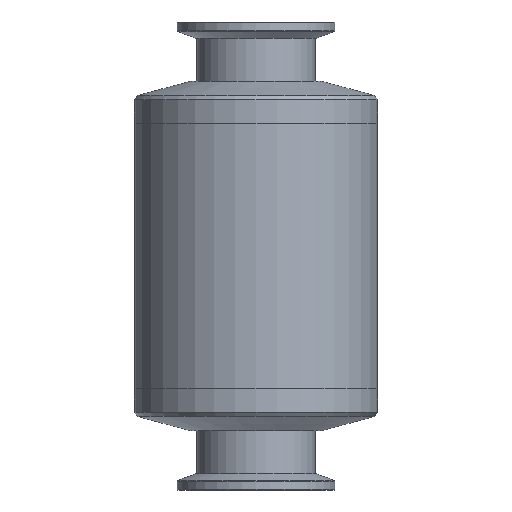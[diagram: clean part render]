
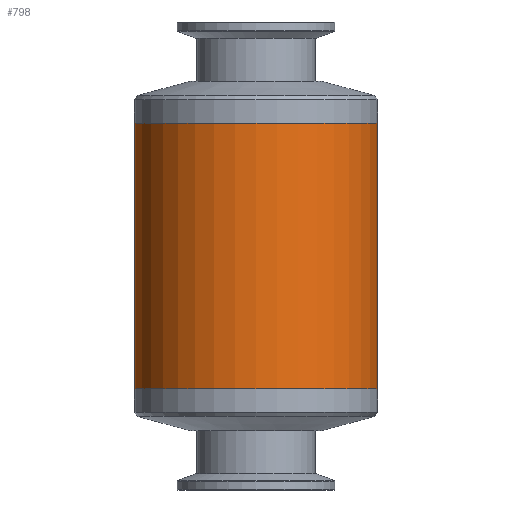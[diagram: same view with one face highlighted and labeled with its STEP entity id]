
A CAD part, front view. The second image highlights one B-rep face of the part: STEP entity #798.
In plain terms, the highlighted cylindrical face has radius 39 mm (diameter 78 mm), a full revolution.
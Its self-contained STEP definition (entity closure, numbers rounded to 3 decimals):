
#31=ELLIPSE('',#3277,55.154,39.);
#32=ELLIPSE('',#3278,55.154,39.);
#92=LINE('',#7933,#143);
#94=LINE('',#7938,#145);
#143=VECTOR('',#4087,1.);
#145=VECTOR('',#4089,1.);
#798=ADVANCED_FACE('',(#1045,#1046,#1047),#873,.T.);
#873=CYLINDRICAL_SURFACE('',#3279,39.);
#1045=FACE_BOUND('',#1336,.T.);
#1046=FACE_BOUND('',#1337,.T.);
#1047=FACE_BOUND('',#1338,.T.);
#1336=EDGE_LOOP('',(#2055,#2056,#2057,#2058));
#1337=EDGE_LOOP('',(#2059));
#1338=EDGE_LOOP('',(#2060));
#2055=ORIENTED_EDGE('',*,*,#2690,.F.);
#2056=ORIENTED_EDGE('',*,*,#2694,.T.);
#2057=ORIENTED_EDGE('',*,*,#2688,.F.);
#2058=ORIENTED_EDGE('',*,*,#2695,.T.);
#2059=ORIENTED_EDGE('',*,*,#2693,.T.);
#2060=ORIENTED_EDGE('',*,*,#2692,.F.);
#2328=VERTEX_POINT('',#7934);
#2329=VERTEX_POINT('',#7935);
#2330=VERTEX_POINT('',#7937);
#2331=VERTEX_POINT('',#7939);
#2332=VERTEX_POINT('',#7943);
#2333=VERTEX_POINT('',#7946);
#2688=EDGE_CURVE('',#2328,#2329,#92,.T.);
#2690=EDGE_CURVE('',#2330,#2331,#94,.T.);
#2692=EDGE_CURVE('',#2332,#2332,#2891,.T.);
#2693=EDGE_CURVE('',#2333,#2333,#2892,.T.);
#2694=EDGE_CURVE('',#2330,#2329,#31,.T.);
#2695=EDGE_CURVE('',#2328,#2331,#32,.T.);
#2891=CIRCLE('',#3273,39.);
#2892=CIRCLE('',#3275,39.);
#3273=AXIS2_PLACEMENT_3D('',#7942,#4093,#4094);
#3275=AXIS2_PLACEMENT_3D('',#7945,#4097,#4098);
#3277=AXIS2_PLACEMENT_3D('',#7948,#4101,#4102);
#3278=AXIS2_PLACEMENT_3D('',#7949,#4103,#4104);
#3279=AXIS2_PLACEMENT_3D('',#7950,#4105,#4106);
#4087=DIRECTION('',(0.,0.,-1.));
#4089=DIRECTION('',(0.,0.,1.));
#4093=DIRECTION('',(0.,0.,1.));
#4094=DIRECTION('',(1.,0.,0.));
#4097=DIRECTION('',(0.,0.,1.));
#4098=DIRECTION('',(-1.,0.,0.));
#4101=DIRECTION('',(0.,-0.707,-0.707));
#4102=DIRECTION('',(0.,0.707,-0.707));
#4103=DIRECTION('',(0.,-0.707,0.707));
#4104=DIRECTION('',(0.,-0.707,-0.707));
#4105=DIRECTION('',(0.,0.,-1.));
#4106=DIRECTION('',(-1.,0.,0.));
#7933=CARTESIAN_POINT('',(316.696,37.5,28.667));
#7934=CARTESIAN_POINT('',(316.696,37.5,-10.333));
#7935=CARTESIAN_POINT('',(316.696,37.5,-48.333));
#7937=CARTESIAN_POINT('',(289.554,37.5,-48.333));
#7938=CARTESIAN_POINT('',(289.554,37.5,-51.333));
#7939=CARTESIAN_POINT('',(289.554,37.5,-10.333));
#7942=CARTESIAN_POINT('',(303.125,0.938,13.167));
#7943=CARTESIAN_POINT('',(342.125,0.938,13.167));
#7945=CARTESIAN_POINT('',(303.125,0.938,-71.833));
#7946=CARTESIAN_POINT('',(264.125,0.938,-71.833));
#7948=CARTESIAN_POINT('',(303.125,0.938,-11.771));
#7949=CARTESIAN_POINT('',(303.125,0.938,-46.896));
#7950=CARTESIAN_POINT('',(303.125,0.938,28.667));
